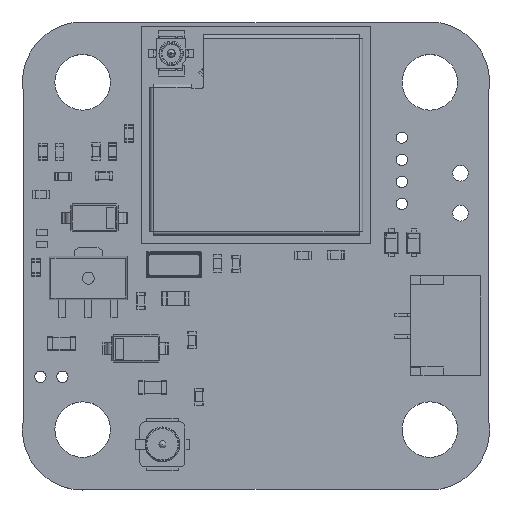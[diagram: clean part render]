
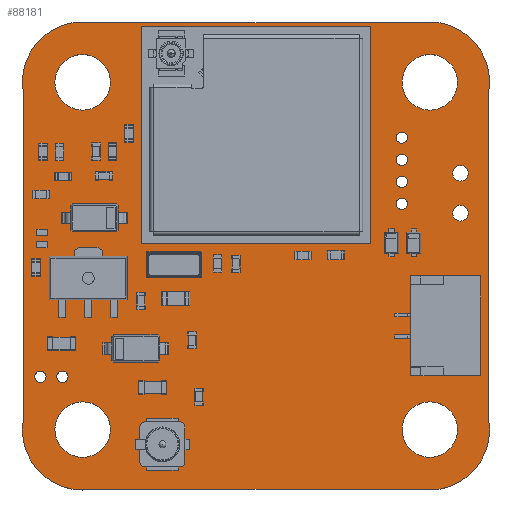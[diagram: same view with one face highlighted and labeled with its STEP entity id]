
A CAD part, top view. The second image highlights one B-rep face of the part: STEP entity #88181.
In plain terms, the highlighted planar face has unit normal (0, 0, 1).
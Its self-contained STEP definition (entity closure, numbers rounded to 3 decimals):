
#87900 = VERTEX_POINT('',#87901);
#87901 = CARTESIAN_POINT('',(61.05,-56.25,0.6));
#87907 = EDGE_CURVE('',#87900,#87908,#87910,.T.);
#87908 = VERTEX_POINT('',#87909);
#87909 = CARTESIAN_POINT('',(65.05,-60.25,0.6));
#87910 = CIRCLE('',#87911,3.453);
#87911 = AXIS2_PLACEMENT_3D('',#87912,#87913,#87914);
#87912 = CARTESIAN_POINT('',(61.65,-59.65,0.6));
#87913 = DIRECTION('',(0.,0.,-1.));
#87914 = DIRECTION('',(-0.174,0.985,0.));
#87942 = VERTEX_POINT('',#87943);
#87943 = CARTESIAN_POINT('',(42.25,-56.25,0.6));
#87949 = EDGE_CURVE('',#87942,#87900,#87950,.T.);
#87950 = LINE('',#87951,#87952);
#87951 = CARTESIAN_POINT('',(42.25,-56.25,0.6));
#87952 = VECTOR('',#87953,1.);
#87953 = DIRECTION('',(1.,0.,0.));
#87971 = EDGE_CURVE('',#87908,#87972,#87974,.T.);
#87972 = VERTEX_POINT('',#87973);
#87973 = CARTESIAN_POINT('',(65.05,-79.1,0.6));
#87974 = LINE('',#87975,#87976);
#87975 = CARTESIAN_POINT('',(65.05,-60.25,0.6));
#87976 = VECTOR('',#87977,1.);
#87977 = DIRECTION('',(0.,-1.,0.));
#88181 = ADVANCED_FACE('',(#88182,#88228,#88239,#88250,#88261,#88272,
    #88283,#88294,#88305,#88316,#88327,#88338,#88349),#88360,.T.);
#88182 = FACE_BOUND('',#88183,.T.);
#88183 = EDGE_LOOP('',(#88184,#88185,#88186,#88195,#88203,#88212,#88220,
    #88227));
#88184 = ORIENTED_EDGE('',*,*,#87907,.F.);
#88185 = ORIENTED_EDGE('',*,*,#87949,.F.);
#88186 = ORIENTED_EDGE('',*,*,#88187,.F.);
#88187 = EDGE_CURVE('',#88188,#87942,#88190,.T.);
#88188 = VERTEX_POINT('',#88189);
#88189 = CARTESIAN_POINT('',(38.25,-60.25,0.6));
#88190 = CIRCLE('',#88191,3.453);
#88191 = AXIS2_PLACEMENT_3D('',#88192,#88193,#88194);
#88192 = CARTESIAN_POINT('',(41.65,-59.65,0.6));
#88193 = DIRECTION('',(0.,0.,-1.));
#88194 = DIRECTION('',(-0.985,-0.174,-0.));
#88195 = ORIENTED_EDGE('',*,*,#88196,.F.);
#88196 = EDGE_CURVE('',#88197,#88188,#88199,.T.);
#88197 = VERTEX_POINT('',#88198);
#88198 = CARTESIAN_POINT('',(38.25,-79.1,0.6));
#88199 = LINE('',#88200,#88201);
#88200 = CARTESIAN_POINT('',(38.25,-79.1,0.6));
#88201 = VECTOR('',#88202,1.);
#88202 = DIRECTION('',(0.,1.,0.));
#88203 = ORIENTED_EDGE('',*,*,#88204,.F.);
#88204 = EDGE_CURVE('',#88205,#88197,#88207,.T.);
#88205 = VERTEX_POINT('',#88206);
#88206 = CARTESIAN_POINT('',(42.25,-83.1,0.6));
#88207 = CIRCLE('',#88208,3.453);
#88208 = AXIS2_PLACEMENT_3D('',#88209,#88210,#88211);
#88209 = CARTESIAN_POINT('',(41.65,-79.7,0.6));
#88210 = DIRECTION('',(0.,0.,-1.));
#88211 = DIRECTION('',(0.174,-0.985,0.));
#88212 = ORIENTED_EDGE('',*,*,#88213,.F.);
#88213 = EDGE_CURVE('',#88214,#88205,#88216,.T.);
#88214 = VERTEX_POINT('',#88215);
#88215 = CARTESIAN_POINT('',(61.05,-83.1,0.6));
#88216 = LINE('',#88217,#88218);
#88217 = CARTESIAN_POINT('',(61.05,-83.1,0.6));
#88218 = VECTOR('',#88219,1.);
#88219 = DIRECTION('',(-1.,0.,0.));
#88220 = ORIENTED_EDGE('',*,*,#88221,.F.);
#88221 = EDGE_CURVE('',#87972,#88214,#88222,.T.);
#88222 = CIRCLE('',#88223,3.453);
#88223 = AXIS2_PLACEMENT_3D('',#88224,#88225,#88226);
#88224 = CARTESIAN_POINT('',(61.65,-79.7,0.6));
#88225 = DIRECTION('',(0.,0.,-1.));
#88226 = DIRECTION('',(0.985,0.174,0.));
#88227 = ORIENTED_EDGE('',*,*,#87971,.F.);
#88228 = FACE_BOUND('',#88229,.T.);
#88229 = EDGE_LOOP('',(#88230));
#88230 = ORIENTED_EDGE('',*,*,#88231,.T.);
#88231 = EDGE_CURVE('',#88232,#88232,#88234,.T.);
#88232 = VERTEX_POINT('',#88233);
#88233 = CARTESIAN_POINT('',(41.663,-81.273,0.6));
#88234 = CIRCLE('',#88235,1.6);
#88235 = AXIS2_PLACEMENT_3D('',#88236,#88237,#88238);
#88236 = CARTESIAN_POINT('',(41.663,-79.673,0.6));
#88237 = DIRECTION('',(-0.,0.,-1.));
#88238 = DIRECTION('',(-0.,-1.,0.));
#88239 = FACE_BOUND('',#88240,.T.);
#88240 = EDGE_LOOP('',(#88241));
#88241 = ORIENTED_EDGE('',*,*,#88242,.T.);
#88242 = EDGE_CURVE('',#88243,#88243,#88245,.T.);
#88243 = VERTEX_POINT('',#88244);
#88244 = CARTESIAN_POINT('',(39.23,-76.955,0.6));
#88245 = CIRCLE('',#88246,0.325);
#88246 = AXIS2_PLACEMENT_3D('',#88247,#88248,#88249);
#88247 = CARTESIAN_POINT('',(39.23,-76.63,0.6));
#88248 = DIRECTION('',(-0.,0.,-1.));
#88249 = DIRECTION('',(0.,-1.,0.));
#88250 = FACE_BOUND('',#88251,.T.);
#88251 = EDGE_LOOP('',(#88252));
#88252 = ORIENTED_EDGE('',*,*,#88253,.T.);
#88253 = EDGE_CURVE('',#88254,#88254,#88256,.T.);
#88254 = VERTEX_POINT('',#88255);
#88255 = CARTESIAN_POINT('',(40.5,-76.955,0.6));
#88256 = CIRCLE('',#88257,0.325);
#88257 = AXIS2_PLACEMENT_3D('',#88258,#88259,#88260);
#88258 = CARTESIAN_POINT('',(40.5,-76.63,0.6));
#88259 = DIRECTION('',(-0.,0.,-1.));
#88260 = DIRECTION('',(-0.,-1.,0.));
#88261 = FACE_BOUND('',#88262,.T.);
#88262 = EDGE_LOOP('',(#88263));
#88263 = ORIENTED_EDGE('',*,*,#88264,.T.);
#88264 = EDGE_CURVE('',#88265,#88265,#88267,.T.);
#88265 = VERTEX_POINT('',#88266);
#88266 = CARTESIAN_POINT('',(61.663,-81.273,0.6));
#88267 = CIRCLE('',#88268,1.6);
#88268 = AXIS2_PLACEMENT_3D('',#88269,#88270,#88271);
#88269 = CARTESIAN_POINT('',(61.663,-79.673,0.6));
#88270 = DIRECTION('',(-0.,0.,-1.));
#88271 = DIRECTION('',(-0.,-1.,0.));
#88272 = FACE_BOUND('',#88273,.T.);
#88273 = EDGE_LOOP('',(#88274));
#88274 = ORIENTED_EDGE('',*,*,#88275,.T.);
#88275 = EDGE_CURVE('',#88276,#88276,#88278,.T.);
#88276 = VERTEX_POINT('',#88277);
#88277 = CARTESIAN_POINT('',(41.663,-61.273,0.6));
#88278 = CIRCLE('',#88279,1.6);
#88279 = AXIS2_PLACEMENT_3D('',#88280,#88281,#88282);
#88280 = CARTESIAN_POINT('',(41.663,-59.673,0.6));
#88281 = DIRECTION('',(-0.,0.,-1.));
#88282 = DIRECTION('',(-0.,-1.,0.));
#88283 = FACE_BOUND('',#88284,.T.);
#88284 = EDGE_LOOP('',(#88285));
#88285 = ORIENTED_EDGE('',*,*,#88286,.T.);
#88286 = EDGE_CURVE('',#88287,#88287,#88289,.T.);
#88287 = VERTEX_POINT('',#88288);
#88288 = CARTESIAN_POINT('',(63.42,-67.66,0.6));
#88289 = CIRCLE('',#88290,0.45);
#88290 = AXIS2_PLACEMENT_3D('',#88291,#88292,#88293);
#88291 = CARTESIAN_POINT('',(63.42,-67.21,0.6));
#88292 = DIRECTION('',(-0.,0.,-1.));
#88293 = DIRECTION('',(-0.,-1.,0.));
#88294 = FACE_BOUND('',#88295,.T.);
#88295 = EDGE_LOOP('',(#88296));
#88296 = ORIENTED_EDGE('',*,*,#88297,.T.);
#88297 = EDGE_CURVE('',#88298,#88298,#88300,.T.);
#88298 = VERTEX_POINT('',#88299);
#88299 = CARTESIAN_POINT('',(60.05,-66.995,0.6));
#88300 = CIRCLE('',#88301,0.325);
#88301 = AXIS2_PLACEMENT_3D('',#88302,#88303,#88304);
#88302 = CARTESIAN_POINT('',(60.05,-66.67,0.6));
#88303 = DIRECTION('',(-0.,0.,-1.));
#88304 = DIRECTION('',(-0.,-1.,0.));
#88305 = FACE_BOUND('',#88306,.T.);
#88306 = EDGE_LOOP('',(#88307));
#88307 = ORIENTED_EDGE('',*,*,#88308,.T.);
#88308 = EDGE_CURVE('',#88309,#88309,#88311,.T.);
#88309 = VERTEX_POINT('',#88310);
#88310 = CARTESIAN_POINT('',(60.05,-65.725,0.6));
#88311 = CIRCLE('',#88312,0.325);
#88312 = AXIS2_PLACEMENT_3D('',#88313,#88314,#88315);
#88313 = CARTESIAN_POINT('',(60.05,-65.4,0.6));
#88314 = DIRECTION('',(-0.,0.,-1.));
#88315 = DIRECTION('',(-0.,-1.,0.));
#88316 = FACE_BOUND('',#88317,.T.);
#88317 = EDGE_LOOP('',(#88318));
#88318 = ORIENTED_EDGE('',*,*,#88319,.T.);
#88319 = EDGE_CURVE('',#88320,#88320,#88322,.T.);
#88320 = VERTEX_POINT('',#88321);
#88321 = CARTESIAN_POINT('',(60.05,-64.455,0.6));
#88322 = CIRCLE('',#88323,0.325);
#88323 = AXIS2_PLACEMENT_3D('',#88324,#88325,#88326);
#88324 = CARTESIAN_POINT('',(60.05,-64.13,0.6));
#88325 = DIRECTION('',(-0.,0.,-1.));
#88326 = DIRECTION('',(-0.,-1.,0.));
#88327 = FACE_BOUND('',#88328,.T.);
#88328 = EDGE_LOOP('',(#88329));
#88329 = ORIENTED_EDGE('',*,*,#88330,.T.);
#88330 = EDGE_CURVE('',#88331,#88331,#88333,.T.);
#88331 = VERTEX_POINT('',#88332);
#88332 = CARTESIAN_POINT('',(63.42,-65.36,0.6));
#88333 = CIRCLE('',#88334,0.45);
#88334 = AXIS2_PLACEMENT_3D('',#88335,#88336,#88337);
#88335 = CARTESIAN_POINT('',(63.42,-64.91,0.6));
#88336 = DIRECTION('',(-0.,0.,-1.));
#88337 = DIRECTION('',(-0.,-1.,0.));
#88338 = FACE_BOUND('',#88339,.T.);
#88339 = EDGE_LOOP('',(#88340));
#88340 = ORIENTED_EDGE('',*,*,#88341,.T.);
#88341 = EDGE_CURVE('',#88342,#88342,#88344,.T.);
#88342 = VERTEX_POINT('',#88343);
#88343 = CARTESIAN_POINT('',(60.05,-63.185,0.6));
#88344 = CIRCLE('',#88345,0.325);
#88345 = AXIS2_PLACEMENT_3D('',#88346,#88347,#88348);
#88346 = CARTESIAN_POINT('',(60.05,-62.86,0.6));
#88347 = DIRECTION('',(-0.,0.,-1.));
#88348 = DIRECTION('',(-0.,-1.,0.));
#88349 = FACE_BOUND('',#88350,.T.);
#88350 = EDGE_LOOP('',(#88351));
#88351 = ORIENTED_EDGE('',*,*,#88352,.T.);
#88352 = EDGE_CURVE('',#88353,#88353,#88355,.T.);
#88353 = VERTEX_POINT('',#88354);
#88354 = CARTESIAN_POINT('',(61.663,-61.273,0.6));
#88355 = CIRCLE('',#88356,1.6);
#88356 = AXIS2_PLACEMENT_3D('',#88357,#88358,#88359);
#88357 = CARTESIAN_POINT('',(61.663,-59.673,0.6));
#88358 = DIRECTION('',(-0.,0.,-1.));
#88359 = DIRECTION('',(-0.,-1.,0.));
#88360 = PLANE('',#88361);
#88361 = AXIS2_PLACEMENT_3D('',#88362,#88363,#88364);
#88362 = CARTESIAN_POINT('',(0.,0.,0.6));
#88363 = DIRECTION('',(0.,0.,1.));
#88364 = DIRECTION('',(1.,0.,-0.));
